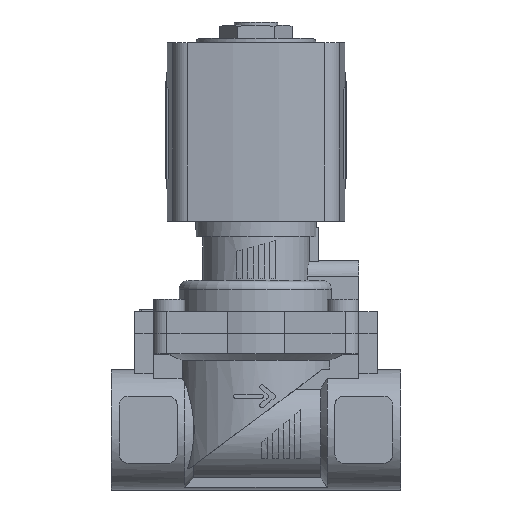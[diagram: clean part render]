
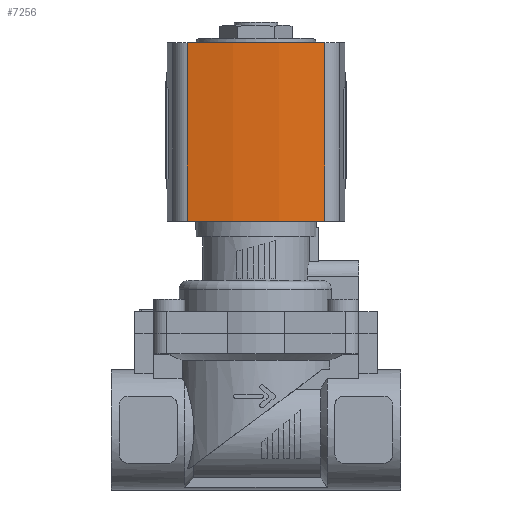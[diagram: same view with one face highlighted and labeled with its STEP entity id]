
A CAD part, top view. The second image highlights one B-rep face of the part: STEP entity #7256.
In plain terms, the highlighted cylindrical face has radius 80 mm (diameter 160 mm), a partial arc.
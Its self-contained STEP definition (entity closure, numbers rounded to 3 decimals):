
#251=CYLINDRICAL_SURFACE('',#7873,80.);
#686=LINE('',#11463,#1212);
#687=LINE('',#11467,#1213);
#1212=VECTOR('',#9435,1000.);
#1213=VECTOR('',#9440,1000.);
#2703=ORIENTED_EDGE('',*,*,#3767,.T.);
#2704=ORIENTED_EDGE('',*,*,#3768,.F.);
#2705=ORIENTED_EDGE('',*,*,#3715,.F.);
#2706=ORIENTED_EDGE('',*,*,#3766,.T.);
#3715=EDGE_CURVE('',#4356,#4357,#4648,.T.);
#3766=EDGE_CURVE('',#4356,#4400,#686,.T.);
#3767=EDGE_CURVE('',#4400,#4401,#4669,.T.);
#3768=EDGE_CURVE('',#4357,#4401,#687,.T.);
#4356=VERTEX_POINT('',#11363);
#4357=VERTEX_POINT('',#11364);
#4400=VERTEX_POINT('',#11462);
#4401=VERTEX_POINT('',#11466);
#4648=CIRCLE('',#7839,80.);
#4669=CIRCLE('',#7874,80.);
#4996=EDGE_LOOP('',(#2703,#2704,#2705,#2706));
#5398=FACE_BOUND('',#4996,.T.);
#7256=ADVANCED_FACE('',(#5398),#251,.T.);
#7839=AXIS2_PLACEMENT_3D('',#11362,#9345,#9346);
#7873=AXIS2_PLACEMENT_3D('',#11464,#9436,#9437);
#7874=AXIS2_PLACEMENT_3D('',#11465,#9438,#9439);
#9345=DIRECTION('',(0.,1.,0.));
#9346=DIRECTION('',(1.,0.,0.));
#9435=DIRECTION('',(0.,-1.,0.));
#9436=DIRECTION('',(0.,-1.,0.));
#9437=DIRECTION('',(0.,0.,-1.));
#9438=DIRECTION('',(0.,1.,0.));
#9439=DIRECTION('',(1.,0.,0.));
#9440=DIRECTION('',(0.,-1.,0.));
#11362=CARTESIAN_POINT('',(-56.5,14.,0.));
#11363=CARTESIAN_POINT('',(21.99,14.,15.472));
#11364=CARTESIAN_POINT('',(21.99,14.,-15.472));
#11462=CARTESIAN_POINT('',(21.99,-26.,15.472));
#11463=CARTESIAN_POINT('',(21.99,14.,15.472));
#11464=CARTESIAN_POINT('',(-56.5,14.,0.));
#11465=CARTESIAN_POINT('',(-56.5,-26.,0.));
#11466=CARTESIAN_POINT('',(21.99,-26.,-15.472));
#11467=CARTESIAN_POINT('',(21.99,14.,-15.472));
